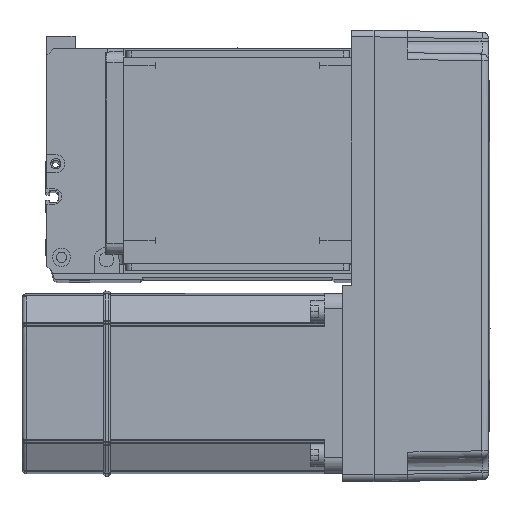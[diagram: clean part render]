
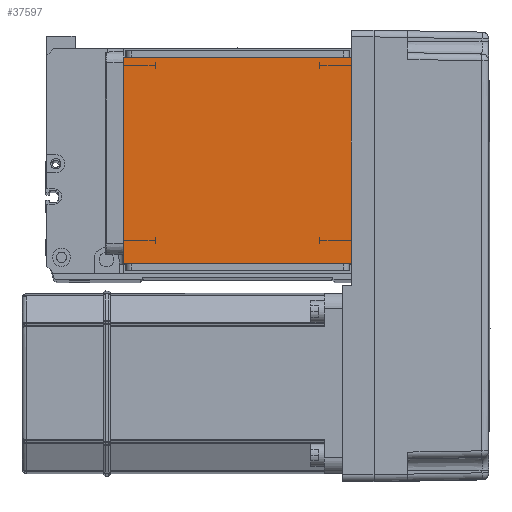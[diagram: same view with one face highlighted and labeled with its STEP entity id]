
A CAD part, top view. The second image highlights one B-rep face of the part: STEP entity #37597.
In plain terms, the highlighted planar face has unit normal (0, 0, 1).
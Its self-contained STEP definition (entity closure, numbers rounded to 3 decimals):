
#1288 = VECTOR ( 'NONE', #11842, 1000. ) ;
#3800 = CARTESIAN_POINT ( 'NONE',  ( 50.5, 122., 115. ) ) ;
#4826 = LINE ( 'NONE', #53079, #38158 ) ;
#6280 = PLANE ( 'NONE',  #33827 ) ;
#6349 = CARTESIAN_POINT ( 'NONE',  ( -70.004, 20., 115. ) ) ;
#9382 = DIRECTION ( 'NONE',  ( 1., 0., 0. ) ) ;
#9515 = LINE ( 'NONE', #3800, #1288 ) ;
#10409 = FACE_OUTER_BOUND ( 'NONE', #47771, .T. ) ;
#11842 = DIRECTION ( 'NONE',  ( 0., 1., 0. ) ) ;
#12111 = EDGE_CURVE ( 'NONE', #26226, #53822, #4826, .T. ) ;
#13869 = CARTESIAN_POINT ( 'NONE',  ( -50.5, 111.5, 115. ) ) ;
#15730 = EDGE_CURVE ( 'NONE', #26226, #41727, #25423, .T. ) ;
#20172 = ORIENTED_EDGE ( 'NONE', *, *, #28105, .T. ) ;
#23420 = VECTOR ( 'NONE', #29579, 1000. ) ;
#23548 = VECTOR ( 'NONE', #53509, 1000. ) ;
#23922 = CARTESIAN_POINT ( 'NONE',  ( 50.5, 111.5, 115. ) ) ;
#25222 = CARTESIAN_POINT ( 'NONE',  ( -50.5, 122., 115. ) ) ;
#25423 = LINE ( 'NONE', #25222, #23420 ) ;
#26226 = VERTEX_POINT ( 'NONE', #13869 ) ;
#28105 = EDGE_CURVE ( 'NONE', #28984, #53822, #9515, .T. ) ;
#28323 = CARTESIAN_POINT ( 'NONE',  ( 0., 0., 115. ) ) ;
#28984 = VERTEX_POINT ( 'NONE', #42216 ) ;
#29579 = DIRECTION ( 'NONE',  ( 0., -1., 0. ) ) ;
#33827 = AXIS2_PLACEMENT_3D ( 'NONE', #28323, #36700, #40650 ) ;
#34811 = EDGE_CURVE ( 'NONE', #28984, #41727, #39216, .T. ) ;
#36700 = DIRECTION ( 'NONE',  ( 0., 0., 1. ) ) ;
#37286 = ORIENTED_EDGE ( 'NONE', *, *, #34811, .F. ) ;
#37311 = ORIENTED_EDGE ( 'NONE', *, *, #15730, .T. ) ;
#37333 = CARTESIAN_POINT ( 'NONE',  ( -50.5, 20., 115. ) ) ;
#37597 = ADVANCED_FACE ( 'NONE', ( #10409 ), #6280, .T. ) ;
#38158 = VECTOR ( 'NONE', #9382, 1000. ) ;
#39216 = LINE ( 'NONE', #6349, #23548 ) ;
#40650 = DIRECTION ( 'NONE',  ( 1., 0., 0. ) ) ;
#41727 = VERTEX_POINT ( 'NONE', #37333 ) ;
#42216 = CARTESIAN_POINT ( 'NONE',  ( 50.5, 20., 115. ) ) ;
#47771 = EDGE_LOOP ( 'NONE', ( #52740, #37311, #37286, #20172 ) ) ;
#52740 = ORIENTED_EDGE ( 'NONE', *, *, #12111, .F. ) ;
#53079 = CARTESIAN_POINT ( 'NONE',  ( -70.004, 111.5, 115. ) ) ;
#53509 = DIRECTION ( 'NONE',  ( -1., 0., 0. ) ) ;
#53822 = VERTEX_POINT ( 'NONE', #23922 ) ;
